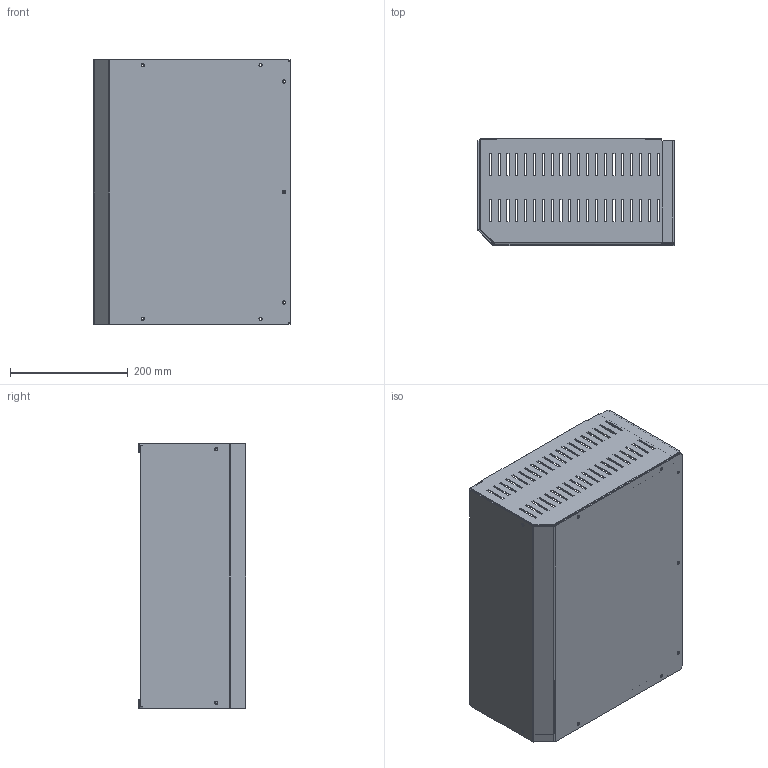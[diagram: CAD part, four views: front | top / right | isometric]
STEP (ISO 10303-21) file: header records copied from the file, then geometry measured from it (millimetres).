
FILE_DESCRIPTION(('CAx-IF Rec.Pracs.---Model Styling and Organization---1.2---2011-12-15','CAx-IF Rec.Pracs.---Geometric and Assembly Validation Properties---4.1---2014-06-16','CAx-IF Rec.Pracs.---PMI Polyline Presentation---2.0---2013-05-24'),'2;1');
FILE_NAME('R5M2W9MSA4.stp','2021-05-05T13:09:56+03:00',(''),(''),'STEP Interface 4.4 by CT CoreTechnologie','3D_Evolution4.4 by CT CoreTechnologie','');
FILE_SCHEMA(('AUTOMOTIVE_DESIGN { 1 0 10303 214 1 1 1 1 }'));
Length unit declared in the file: millimetre
Products named in the file (5): R5M2W9MSA4; RB.1218.00.00.0_-00; RB.1219.00.00.0_-00; RB.1220.00.00.0_-00; RB.1218.00.00.0_-01
Assembly tree (4 placements, depth 2):
  R5M2W9MSA4
    RB.1218.00.00.0_-00
    RB.1219.00.00.0_-00
    RB.1220.00.00.0_-00
    RB.1218.00.00.0_-01
Bounding box: 333 x 182 x 449 mm (x, y, z)
Surface area: 854617.5 mm2 (no closed solid volume)
Topology: 0 solids, 6 shells, 684 faces, 1961 edges, 1289 vertices
Faces by surface type: plane 592, cylinder 80, bspline 12
Entity records: 23042 total; most frequent: CARTESIAN_POINT 4311, ORIENTED_EDGE 3922, DIRECTION 3462, EDGE_CURVE 1961, VECTOR 1794, LINE 1794, VERTEX_POINT 1289, EDGE_LOOP 964
